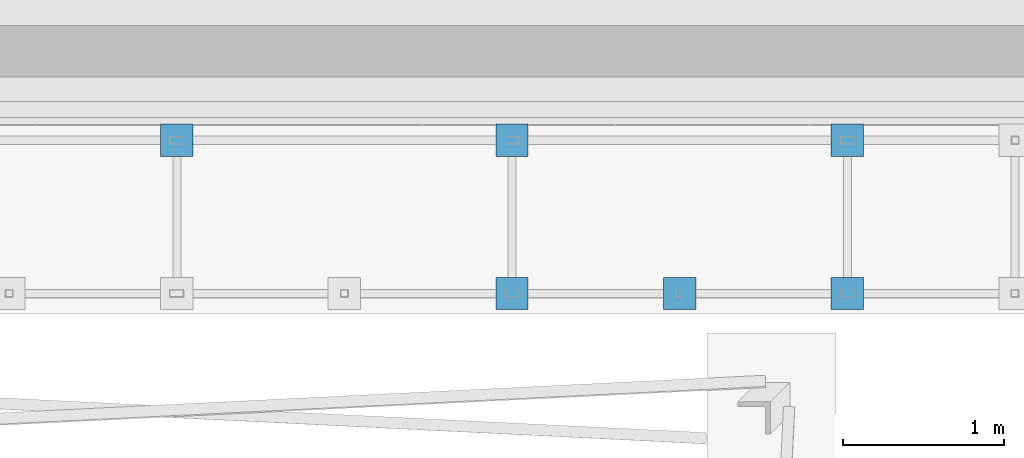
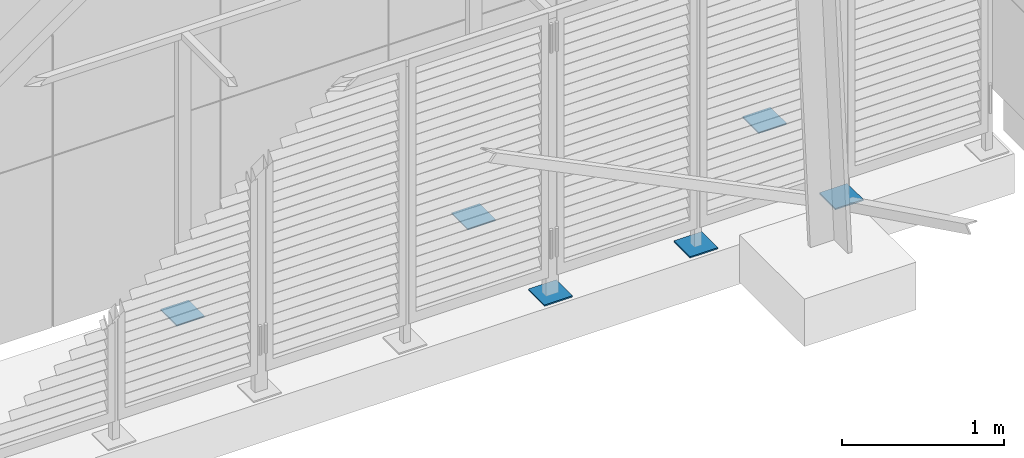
# One storey, part 61 of 418: 6 discrete accessories.
"""IFC2X3 building model written with IfcOpenShell, lengths in millimetres."""

import ifcopenshell
import ifcopenshell.guid

model = None  # the IFC model being written
_history = None  # IfcOwnerHistory: only IFC2X3 demands one
_inside = {}  # id of a spatial element -> (the spatial element, [elements in it])
_under = {}  # id of a project, library or spatial element -> (it, [spatial elements below it])
_declared = {}  # id of a project -> (the project, [libraries it declares])
_typed = {}  # id of a type object -> (the type object, [elements of that type])
_made_of = {}  # id of a material, layer set ... -> (it, [elements and type objects made of it])


def new_model(schema):
    """Start an empty IFC model of exactly this schema.

    Asked for "IFC4X3", IfcOpenShell would pick the latest addendum, in which some entities
    have other attributes; the version numbers below select the first issue.
    IFC2X3 requires an IfcOwnerHistory on every rooted entity: one is made here for all.
    """
    global model, _history
    if schema == "IFC4X3":
        model = ifcopenshell.file(schema_version=(4, 3, 0, 0))
    else:
        model = ifcopenshell.file(schema=schema)
    _inside.clear()
    _under.clear()
    _declared.clear()
    _typed.clear()
    _made_of.clear()
    _history = None
    if model.schema == "IFC2X3":
        org = make("IfcOrganization", Name="unknown")
        user = make(
            "IfcPersonAndOrganization",
            ThePerson=make("IfcPerson", FamilyName="unknown"),
            TheOrganization=org,
        )
        app = make(
            "IfcApplication",
            ApplicationDeveloper=org,
            Version="unknown",
            ApplicationFullName="unknown",
            ApplicationIdentifier="unknown",
        )
        _history = make(
            "IfcOwnerHistory",
            OwningUser=user,
            OwningApplication=app,
            ChangeAction="ADDED",
            CreationDate=0,
        )
    return model


def make(cls, **values):
    """One entity of the class cls with the attributes given. An attribute that is None is left unset."""
    return model.create_entity(
        cls, **{name: value for name, value in values.items() if value is not None}
    )


def entity(cls, *values):
    """Any entity or typed value of the class cls, its attributes in the order of the schema. None: left unset."""
    e = model.create_entity(cls)
    for i, value in enumerate(values):
        if value is not None:
            e[i] = value
    return e


def rooted(cls, **values):
    """An entity with a GlobalId (a new one), such as an element, a storey or a relation."""
    return make(cls, GlobalId=ifcopenshell.guid.new(), OwnerHistory=_history, **values)


def si_unit(unit_type, name, prefix=None):
    """IfcSIUnit, for example si_unit("LENGTHUNIT", "METRE", prefix="MILLI")."""
    return make("IfcSIUnit", UnitType=unit_type, Prefix=prefix, Name=name)


def converted_unit(unit_type, name, factor, base, dimensions=None, offset=None):
    """IfcConversionBasedUnit, such as the inch: factor (a typed value) times the base unit."""
    return make(
        "IfcConversionBasedUnit"
        if offset is None
        else "IfcConversionBasedUnitWithOffset",
        ConversionOffset=offset,
        Dimensions=None
        if dimensions is None
        else entity("IfcDimensionalExponents", *dimensions),
        UnitType=unit_type,
        Name=name,
        ConversionFactor=make(
            "IfcMeasureWithUnit", ValueComponent=factor, UnitComponent=base
        ),
    )


def derived_unit(unit_type, elements):
    """IfcDerivedUnit: a product of units, each with its exponent."""
    return make(
        "IfcDerivedUnit",
        Elements=[
            make("IfcDerivedUnitElement", Unit=unit, Exponent=power)
            for unit, power in elements
        ],
        UnitType=unit_type,
    )


def money_unit(currency):
    """IfcMonetaryUnit."""
    return make("IfcMonetaryUnit", Currency=currency)


def assignment(units):
    """IfcUnitAssignment: the units of a project."""
    return None if units is None else make("IfcUnitAssignment", Units=units)


def point(xyz):
    """IfcCartesianPoint."""
    return None if xyz is None else make("IfcCartesianPoint", Coordinates=xyz)


def direction(xyz):
    """IfcDirection."""
    return None if xyz is None else make("IfcDirection", DirectionRatios=xyz)


def frame(location, z_axis=None, x_axis=None):
    """IfcAxis2Placement3D, a coordinate frame: its origin and axes. An axis left out is left unset."""
    return make(
        "IfcAxis2Placement3D",
        Location=point(location),
        Axis=direction(z_axis),
        RefDirection=direction(x_axis),
    )


def origin_with_axes():
    """The frame at (0, 0, 0) with the z axis (0, 0, 1) and the x axis (1, 0, 0) written out."""
    return frame((0.0, 0.0, 0.0), z_axis=(0.0, 0.0, 1.0), x_axis=(1.0, 0.0, 0.0))


def place(relative_to, where):
    """IfcLocalPlacement: puts the frame where relative to a parent placement (None: the world)."""
    return make(
        "IfcLocalPlacement", PlacementRelTo=relative_to, RelativePlacement=where
    )


def context(
    kind, dimensions, precision=None, world=None, true_north=None, identifier=None
):
    """IfcGeometricRepresentationContext, for example the 3D "Model" context."""
    return make(
        "IfcGeometricRepresentationContext",
        ContextIdentifier=identifier,
        ContextType=kind,
        CoordinateSpaceDimension=dimensions,
        Precision=precision,
        WorldCoordinateSystem=world,
        TrueNorth=true_north,
    )


def subcontext(parent, identifier, kind, view, scale=None):
    """IfcGeometricRepresentationSubContext, for example "Body" below "Model"."""
    return make(
        "IfcGeometricRepresentationSubContext",
        ContextIdentifier=identifier,
        ContextType=kind,
        ParentContext=parent,
        TargetScale=scale,
        TargetView=view,
    )


def project(units=None, contexts=None):
    """IfcProject with its units and contexts."""
    return rooted(
        "IfcProject",
        Name="project",
        RepresentationContexts=contexts,
        UnitsInContext=assignment(units),
    )


def spatial(cls, under=None, at=None, **own):
    """A site, building, storey or space (cls), placed at a placement, below another one or the project."""
    s = rooted(cls, ObjectPlacement=at, **own)
    if under is not None:
        _under.setdefault(under.id(), (under, []))[1].append(s)
    return s


def polyline(points):
    """IfcPolyline through the points."""
    return make("IfcPolyline", Points=[point(p) for p in points])


def outline(outer, holes=None, kind="AREA"):
    """IfcArbitraryClosedProfileDef: a profile drawn as a closed curve; with holes, ...WithVoids."""
    if holes is None:
        return make("IfcArbitraryClosedProfileDef", ProfileType=kind, OuterCurve=outer)
    return make(
        "IfcArbitraryProfileDefWithVoids",
        ProfileType=kind,
        OuterCurve=outer,
        InnerCurves=holes,
    )


def extrude(swept, where, along, depth):
    """IfcExtrudedAreaSolid: the profile swept, set in the frame where, extruded along a direction by depth."""
    return make(
        "IfcExtrudedAreaSolid",
        SweptArea=swept,
        Position=where,
        ExtrudedDirection=direction(along),
        Depth=depth,
    )


def shape(context_of_items, identifier, shape_type, items):
    """IfcShapeRepresentation: the items that make up one representation, for example the "Body"."""
    return make(
        "IfcShapeRepresentation",
        ContextOfItems=context_of_items,
        RepresentationIdentifier=identifier,
        RepresentationType=shape_type,
        Items=items,
    )


def material(Name=None, Category=None):
    """IfcMaterial."""
    return make("IfcMaterial", Name=Name, Category=Category)


def made_of(thing, what):
    """Note that an element or type object is made of a material, layer set ...; save() writes the relation."""
    if what is not None:
        _made_of.setdefault(what.id(), (what, []))[1].append(thing)
    return thing


def type_object(cls, material=None, **own):
    """A type object (cls), such as IfcWallType, which elements share."""
    return made_of(rooted(cls, **own), material)


def element(
    cls,
    number,
    at=None,
    inside=None,
    cuts=None,
    type_object=None,
    material=None,
    context=None,
    identifier="Body",
    shape_type=None,
    held_by="IfcProductDefinitionShape",
    body=None,
    shapes=None,
    **own,
):
    """One element of the class cls, such as IfcWall. Its Tag is "e" and its number.

    at: its placement. inside: the storey or other place that contains it. cuts: it is an
    opening in that element (IfcRelVoidsElement). A single representation is given by context,
    identifier, shape_type and body (its items); several are given by shapes. held_by: the class
    of the entity that holds the representations. save() writes the other relations.
    """
    e = rooted(cls, Tag="e%d" % number, ObjectPlacement=at, **own)
    if body is not None:
        shapes = [shape(context, identifier, shape_type, body)]
    if shapes is not None:
        e.Representation = make(held_by, Representations=shapes)
    if inside is not None:
        _inside.setdefault(inside.id(), (inside, []))[1].append(e)
    if cuts is not None:
        rooted(
            "IfcRelVoidsElement", RelatingBuildingElement=cuts, RelatedOpeningElement=e
        )
    if type_object is not None:
        _typed.setdefault(type_object.id(), (type_object, []))[1].append(e)
    return made_of(e, material)


def aggregate(whole, parts):
    """IfcRelAggregates: a whole, such as a stair, and the parts it consists of."""
    return rooted("IfcRelAggregates", RelatingObject=whole, RelatedObjects=parts)


def save(model, path):
    """Write the relations noted so far, then the file.

    IfcRelAggregates (storeys below a building ...), IfcRelContainedInSpatialStructure (elements
    in a storey), IfcRelDefinesByType, IfcRelAssociatesMaterial and IfcRelDeclares: one each for
    every whole, place, type object, material and project.
    """
    for whole, parts in _under.values():
        aggregate(whole, parts)
    for where, things in _inside.values():
        rooted(
            "IfcRelContainedInSpatialStructure",
            RelatedElements=things,
            RelatingStructure=where,
        )
    for kind, things in _typed.values():
        rooted("IfcRelDefinesByType", RelatedObjects=things, RelatingType=kind)
    for what, things in _made_of.values():
        rooted("IfcRelAssociatesMaterial", RelatedObjects=things, RelatingMaterial=what)
    for by, libraries in _declared.values():
        rooted("IfcRelDeclares", RelatingContext=by, RelatedDefinitions=libraries)
    model.write(path)


model = new_model("IFC2X3")

# Units and contexts
model_context = context("Model", 3, precision=0.01, world=origin_with_axes(), true_north=direction((0.0, 1.0)))
body_context = subcontext(model_context, "Body", "Model", "MODEL_VIEW")
ifc_project = project(units=[si_unit("LENGTHUNIT", "METRE", prefix="MILLI"), si_unit("AREAUNIT", "SQUARE_METRE"), si_unit("VOLUMEUNIT", "CUBIC_METRE"), converted_unit("PLANEANGLEUNIT", "DEGREE", entity("IfcPlaneAngleMeasure", 0.0174532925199), si_unit("PLANEANGLEUNIT", "RADIAN"), dimensions=[0, 0, 0, 0, 0, 0, 0]), si_unit("SOLIDANGLEUNIT", "STERADIAN"), money_unit("EUR"), converted_unit("TIMEUNIT", "Year", entity("IfcTimeMeasure", 31556926.0), si_unit("TIMEUNIT", "SECOND"), dimensions=[0, 0, 1, 0, 0, 0, 0]), si_unit("MASSUNIT", "GRAM", prefix="KILO"), si_unit("THERMODYNAMICTEMPERATUREUNIT", "DEGREE_CELSIUS"), si_unit("LUMINOUSINTENSITYUNIT", "LUMEN"), si_unit("ENERGYUNIT", "JOULE", prefix="MEGA"), derived_unit("THERMALCONDUCTANCEUNIT", [(si_unit("POWERUNIT", "WATT"), 1), (si_unit("LENGTHUNIT", "METRE"), -1), (si_unit("THERMODYNAMICTEMPERATUREUNIT", "KELVIN"), -1)]), derived_unit("SPECIFICHEATCAPACITYUNIT", [(si_unit("ENERGYUNIT", "JOULE"), 1), (si_unit("MASSUNIT", "GRAM", prefix="KILO"), -1), (si_unit("THERMODYNAMICTEMPERATUREUNIT", "KELVIN"), -1)]), derived_unit("MASSDENSITYUNIT", [(si_unit("MASSUNIT", "GRAM", prefix="KILO"), 1), (si_unit("VOLUMEUNIT", "CUBIC_METRE"), -1)])], contexts=[model_context])

# Site, building, storey
site_placement = place(None, origin_with_axes())
site = spatial("IfcSite", under=ifc_project, at=site_placement, Name="Paldiski mnt 245/1, Tallinn, Harjumaa", CompositionType="COMPLEX")
building_placement = place(site_placement, origin_with_axes())
building = spatial("IfcBuilding", under=site, at=building_placement, Name="RKAS Hoone üldnimetus (kasutust iseloomustav) -> IFC Project Manager -> SOLIBRI", CompositionType="ELEMENT")
storey_placement = place(building_placement, origin_with_axes())
storey = spatial("IfcBuildingStorey", under=building, at=storey_placement, Name="Esimene korrus", CompositionType="ELEMENT", Elevation=0.0)

# Discrete accessories
ifc_material = material(Name="Teras")
discrete_accessory_type = type_object("IfcDiscreteAccessoryType", Name="Teras 10")
for number, where, z_axis, x_axis in (
    (1, (-50710.0, -1630.71022117, -140.0), (0.0, 0.0, 1.0), (1.0, 0.0, 0.0)),
    (2, (-53830.0, -680.710221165, -140.0), (0.0, 0.0, 1.0), (1.0, 0.0, 0.0)),
    (3, (-51750.0, -1630.71022117, -140.0), (0.0, 0.0, 1.0), (1.0, 0.0, 0.0)),
    (4, (-51750.0, -680.710221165, -140.0), (0.0, 0.0, 1.0), (1.0, 0.0, 0.0)),
    (5, (-49670.0, -1630.71022117, -140.0), (0.0, 0.0, 1.0), (1.0, 0.0, 0.0)),
    (6, (-49670.0, -680.710221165, -140.0), (0.0, 0.0, 1.0), (1.0, 0.0, 0.0)),
):
    element("IfcDiscreteAccessory", number, at=place(storey_placement, frame(where, z_axis=z_axis, x_axis=x_axis)), inside=storey, type_object=discrete_accessory_type, material=ifc_material, Name="Kinnitus", context=body_context, shape_type="SweptSolid", body=[
        extrude(outline(polyline([(0.0, 0.0), (200.0, 0.0), (200.0, 200.0), (0.0, 200.0), (0.0, 0.0)])), frame((0.0, 0.0, -10.0), z_axis=(0.0, 0.0, 1.0), x_axis=(1.0, 0.0, 0.0)), (0.0, 0.0, 1.0), 10.0),
    ])

save(model, "model.ifc")
